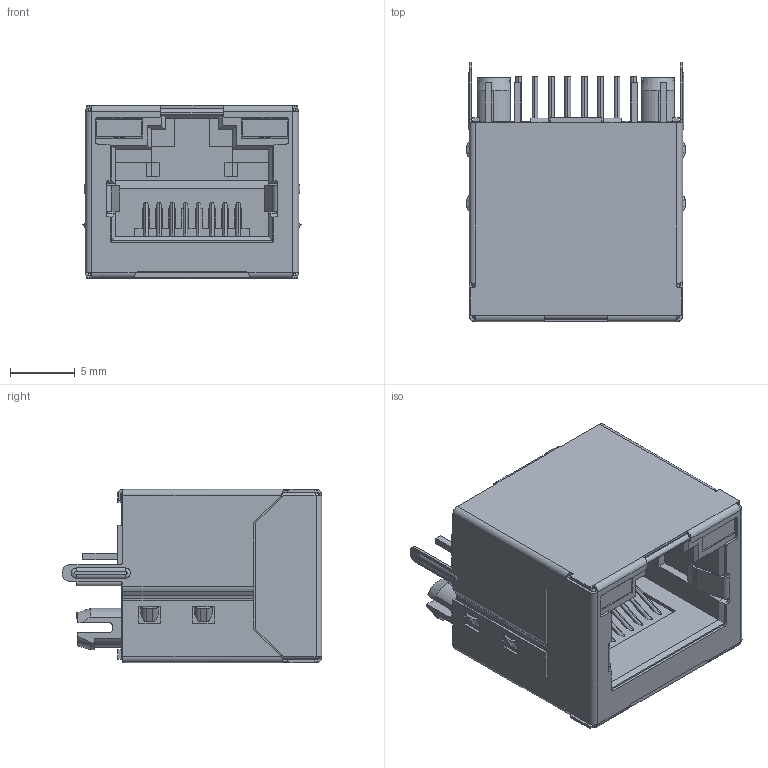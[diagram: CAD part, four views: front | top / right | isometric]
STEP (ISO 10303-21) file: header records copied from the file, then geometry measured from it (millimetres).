
FILE_DESCRIPTION (( 'STEP AP203' ), '1' );
FILE_NAME ('TM-52T8811EL1.STEP', '2020-01-16T07:02:30', ( '微软用户' ), ( '微软中国' ), 'SwSTEP 2.0', 'SolidWorks 2016', '' );
FILE_SCHEMA (( 'CONFIG_CONTROL_DESIGN' ));
Length unit declared in the file: millimetre
Products named in the file (1): TM-52T8811EL1
Bounding box: 16.88 x 20.1 x 13.4 mm (x, y, z)
Volume: 2098.4 mm3; surface area: 5007.7 mm2
Topology: 8 solids, 9 shells, 781 faces, 2160 edges, 1390 vertices
Faces by surface type: plane 544, cylinder 203, bspline 26, cone 6, torus 2
Entity records: 25769 total; most frequent: CARTESIAN_POINT 6060, ORIENTED_EDGE 4312, DIRECTION 3771, EDGE_CURVE 2156, LINE 1673, VECTOR 1673, VERTEX_POINT 1390, AXIS2_PLACEMENT_3D 1049
